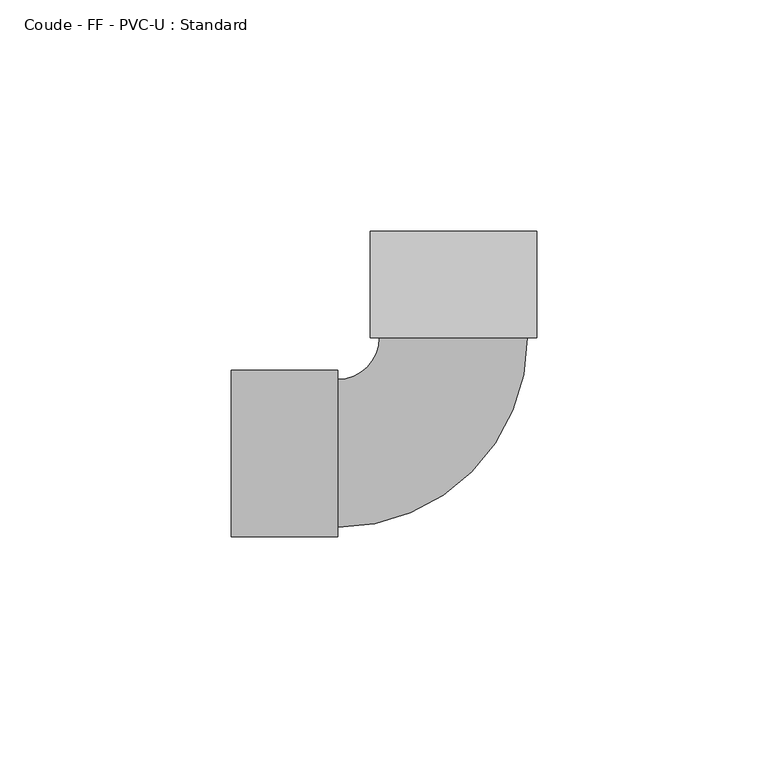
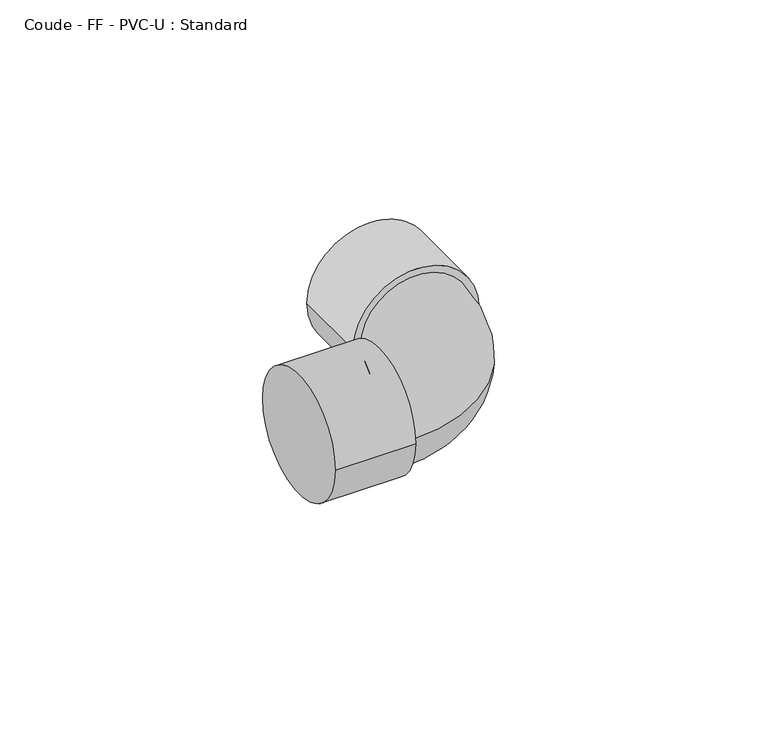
"""IFC4 building model written with IfcOpenShell, lengths in millimetres: pipe fitting geometry, Coude - FF - PVC-U : Standard."""

from ifc_helpers import new_model, si_unit, point, frame, origin, place, context, project, spatial, circle_curve, ellipse_curve, trimmed, source, transform, mapped, element, save
from ifc_brep_helpers import plane_surface, cylinder_surface, revolved_surface, advanced_brep


def coude_ff_pvc_u_standard_6a7cee45(model_context):
    return source(origin(), model_context, "Body", "AdvancedBrep", [
        advanced_brep(
        [(-48.0, -18.0, 0.0), (-48.0, 18.0, 0.0), (-25.0, -18.0, 0.0), (-25.0, 18.0, 0.0), (-25.0, -16.0, 0.0), (-25.0, 16.0, 0.0), (-16.0003775, 24.9997584, 0.0), (15.9996225, 25.0002416, 0.0), (17.9996225, 25.0002718, 0.0), (-18.0003775, 24.9997282, 0.0), (17.9992751, 48.0002718, 0.0), (-18.0007249, 47.9997282, 0.0)],
        [
            (0, 1, circle_curve(frame((-48.0, 0.0, 0.0), z_axis=(-1.0, 0.0, 0.0), x_axis=(0.0, 1.0, 0.0)), 18.0)),
            (1, 0, circle_curve(frame((-48.0, 0.0, 0.0), z_axis=(-1.0, 0.0, 0.0), x_axis=(0.0, 1.0, 0.0)), 18.0)),
            (2, 3, circle_curve(frame((-25.0, 0.0, 0.0), z_axis=(1.0, 0.0, 0.0), x_axis=(0.0, 1.0, 0.0)), 18.0)),
            (3, 2, circle_curve(frame((-25.0, 0.0, 0.0), z_axis=(1.0, 0.0, 0.0), x_axis=(0.0, 1.0, 0.0)), 18.0)),
            (4, 5, circle_curve(frame((-25.0, 0.0, 0.0), z_axis=(-1.0, 0.0, 0.0), x_axis=(0.0, 1.0, 0.0)), 16.0)),
            (5, 4, circle_curve(frame((-25.0, 0.0, 0.0), z_axis=(-1.0, 0.0, 0.0), x_axis=(0.0, 1.0, 0.0)), 16.0)),
            (0, 2),
            (3, 1),
            (6, 5, circle_curve(frame((-25.0, 24.9996225, 0.0), z_axis=(0.0, 0.0, -1.0), x_axis=(0.0, -1.0, 0.0)), 8.9996225)),
            (4, 7, circle_curve(frame((-25.0, 24.9996225, 0.0), z_axis=(0.0, 0.0, 1.0), x_axis=(0.0, -1.0, 0.0)), 40.9996225)),
            (7, 6, circle_curve(frame((-0.0003775, 25.0, 0.0), z_axis=(1.5101836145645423e-05, -0.9999999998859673, 0.0), x_axis=(-0.9999999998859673, -1.5101836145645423e-05, 0.0)), 16.0)),
            (6, 7, circle_curve(frame((-0.0003775, 25.0, 0.0), z_axis=(1.5101836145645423e-05, -0.9999999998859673, 0.0), x_axis=(-0.9999999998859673, -1.5101836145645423e-05, 0.0)), 16.0)),
            (8, 9, circle_curve(frame((-0.0003775, 25.0, 0.0), z_axis=(1.5101836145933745e-05, -0.9999999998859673, 0.0), x_axis=(-0.9999999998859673, -1.5101836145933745e-05, 0.0)), 18.0)),
            (9, 8, circle_curve(frame((-0.0003775, 25.0, 0.0), z_axis=(1.5101836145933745e-05, -0.9999999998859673, 0.0), x_axis=(-0.9999999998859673, -1.5101836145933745e-05, 0.0)), 18.0)),
            (10, 11, circle_curve(frame((-0.0007249, 48.0, 0.0), z_axis=(-1.5101836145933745e-05, 0.9999999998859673, 0.0), x_axis=(-0.9999999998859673, -1.5101836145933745e-05, 0.0)), 18.0)),
            (11, 10, circle_curve(frame((-0.0007249, 48.0, 0.0), z_axis=(-1.5101836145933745e-05, 0.9999999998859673, 0.0), x_axis=(-0.9999999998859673, -1.5101836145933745e-05, 0.0)), 18.0)),
            (8, 10),
            (11, 9),
        ],
        [
            plane_surface(frame((-48.0, 0.0, 0.0), z_axis=(-1.0, 0.0, 0.0), x_axis=(0.0, 0.0, 1.0))),
            plane_surface(frame((-25.0, 0.0, 0.0), z_axis=(1.0, 0.0, 0.0), x_axis=(0.0, 0.0, 1.0))),
            cylinder_surface(frame((-48.0, 0.0, 0.0), z_axis=(-1.0, 0.0, 0.0), x_axis=(0.0, 1.0, 0.0)), 18.0),
            revolved_surface(trimmed(ellipse_curve(frame((-25.0, 0.0, 0.0), z_axis=(-1.0, 0.0, 0.0), x_axis=(0.0, 1.0, 0.0)), 16.0, 16.0), [point((-25.0, -16.0, 0.0))], [point((-25.0, 16.0, 0.0))], True, "CARTESIAN"), (-25.0, 24.9996225, 0.0), (0.0, 0.0, 1.0)),
            revolved_surface(trimmed(ellipse_curve(frame((-25.0, 0.0, 0.0), z_axis=(-1.0, 0.0, 0.0), x_axis=(0.0, 1.0, 0.0)), 16.0, 16.0), [point((-25.0, 16.0, 0.0))], [point((-25.0, -16.0, 0.0))], True, "CARTESIAN"), (-25.0, 24.9996225, 0.0), (0.0, 0.0, 1.0)),
            plane_surface(frame((-0.0003775, 25.0, 0.0), z_axis=(1.5101836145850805e-05, -0.9999999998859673, 0.0), x_axis=(0.0, 0.0, 1.0))),
            plane_surface(frame((-0.0007249, 48.0, 0.0), z_axis=(-1.5101836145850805e-05, 0.9999999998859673, 0.0), x_axis=(0.0, 0.0, 1.0))),
            cylinder_surface(frame((-0.0003775, 25.0, 0.0), z_axis=(1.5101836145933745e-05, -0.9999999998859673, 0.0), x_axis=(-0.9999999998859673, -1.5101836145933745e-05, 0.0)), 18.0),
        ],
        [
            (0, [[1, 2]]),
            (1, [[3, 4], [5, 6]]),
            (2, [[-1, 7, -4, 8]]),
            (2, [[-2, -8, -3, -7]]),
            (3, [[9, -5, 10, 11]]),
            (4, [[-9, 12, -10, -6]]),
            (5, [[13, 14], [-11, -12]]),
            (6, [[15, 16]]),
            (7, [[-13, 17, -16, 18]]),
            (7, [[-14, -18, -15, -17]]),
        ],
    ),
    ])


if __name__ == "__main__":
    model = new_model("IFC4")
    model_context = context("Model", 3, world=origin())
    ifc_project = project(units=[si_unit("LENGTHUNIT", "METRE", prefix="MILLI")], contexts=[model_context])
    site = spatial("IfcSite", under=ifc_project)
    building = spatial("IfcBuilding", under=site)
    placement = place(None, origin())
    coude_ff_pvc_u_standard_shape = coude_ff_pvc_u_standard_6a7cee45(model_context)
    element("IfcPipeFitting", 1, ObjectType="Coude - FF - PVC-U : Standard", at=placement, inside=building, context=model_context, shape_type="MappedRepresentation", body=[
        mapped(coude_ff_pvc_u_standard_shape, transform((0.0, 0.0, 0.0), x_axis=(1.0, 0.0, 0.0), y_axis=(0.0, 1.0, 0.0), z_axis=(0.0, 0.0, 1.0))),
    ])
    save(model, "model.ifc")
